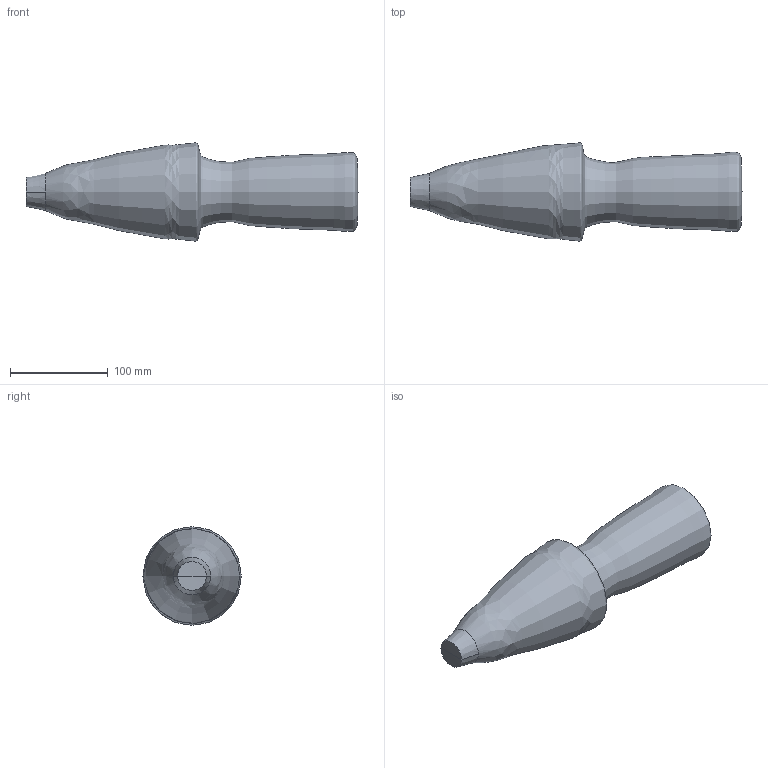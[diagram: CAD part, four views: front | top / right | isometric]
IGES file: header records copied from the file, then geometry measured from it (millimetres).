
Global section: file name: No Iges File Name specified; native system: Autodesk Inventor 2009; preprocessor: AutoDesk Inventor Iges Exporter R2009; author: Oliver Liedtke; date: 20090511.134604; units: millimetre
Bounding box: 340.2 x 100.79 x 100.8 mm (x, y, z)
Volume: 1468430.4 mm3; surface area: 86311 mm2
Topology: 1 solids, 1 shells, 5 faces, 12 edges, 6 vertices
Faces by surface type: cone 2, revolution 2, bspline 1
